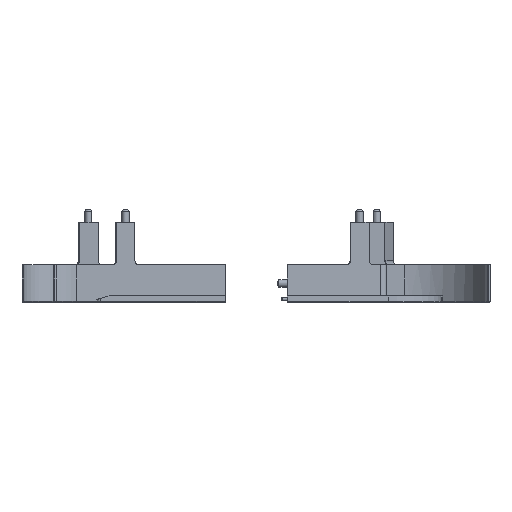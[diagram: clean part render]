
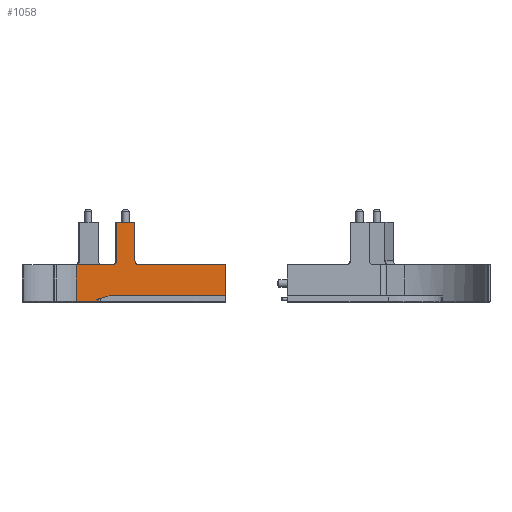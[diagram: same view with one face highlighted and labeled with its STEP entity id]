
A CAD part, front view. The second image highlights one B-rep face of the part: STEP entity #1058.
In plain terms, the highlighted planar face has unit normal (0.035, -0.999, 0).
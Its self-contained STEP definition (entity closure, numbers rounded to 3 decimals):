
#1058=ADVANCED_FACE('',(#1502),#4502,.T.);
#1502=FACE_OUTER_BOUND('',#1982,.T.);
#1982=EDGE_LOOP('',(#3475,#3476,#3477,#3478,#3479,#3480,#3481,#3482,#3483,
#3484,#3485,#3486,#3487,#3488));
#3475=ORIENTED_EDGE('',*,*,#6757,.F.);
#3476=ORIENTED_EDGE('',*,*,#6671,.T.);
#3477=ORIENTED_EDGE('',*,*,#6776,.F.);
#3478=ORIENTED_EDGE('',*,*,#6777,.F.);
#3479=ORIENTED_EDGE('',*,*,#6778,.T.);
#3480=ORIENTED_EDGE('',*,*,#6666,.T.);
#3481=ORIENTED_EDGE('',*,*,#6756,.F.);
#3482=ORIENTED_EDGE('',*,*,#6742,.T.);
#3483=ORIENTED_EDGE('',*,*,#6601,.F.);
#3484=ORIENTED_EDGE('',*,*,#6700,.F.);
#3485=ORIENTED_EDGE('',*,*,#6719,.T.);
#3486=ORIENTED_EDGE('',*,*,#6709,.F.);
#3487=ORIENTED_EDGE('',*,*,#6626,.F.);
#3488=ORIENTED_EDGE('',*,*,#6828,.F.);
#4502=PLANE('',#8647);
#5011=LINE('',#12586,#5706);
#5020=LINE('',#12611,#5715);
#5061=LINE('',#12694,#5756);
#5067=LINE('',#12703,#5762);
#5074=LINE('',#12713,#5769);
#5092=LINE('',#12745,#5787);
#5102=LINE('',#12759,#5797);
#5103=LINE('',#12760,#5798);
#5118=LINE('',#12784,#5813);
#5119=LINE('',#12785,#5814);
#5120=LINE('',#12786,#5815);
#5170=LINE('',#12836,#5865);
#5706=VECTOR('',#10124,1.);
#5715=VECTOR('',#10165,1.);
#5756=VECTOR('',#10266,1.);
#5762=VECTOR('',#10278,1.);
#5769=VECTOR('',#10291,1.);
#5787=VECTOR('',#10313,1.);
#5797=VECTOR('',#10331,1.);
#5798=VECTOR('',#10332,1.);
#5813=VECTOR('',#10353,1.);
#5814=VECTOR('',#10354,1.);
#5815=VECTOR('',#10355,1.);
#5865=VECTOR('',#10405,1.);
#6601=EDGE_CURVE('',#7805,#7806,#5011,.T.);
#6626=EDGE_CURVE('',#7934,#7828,#5020,.T.);
#6666=EDGE_CURVE('',#7865,#7863,#7321,.T.);
#6671=EDGE_CURVE('',#7867,#7868,#7324,.T.);
#6700=EDGE_CURVE('',#7888,#7805,#5061,.T.);
#6709=EDGE_CURVE('',#7828,#7894,#5067,.T.);
#6719=EDGE_CURVE('',#7888,#7894,#5074,.T.);
#6742=EDGE_CURVE('',#7914,#7806,#5092,.T.);
#6756=EDGE_CURVE('',#7914,#7863,#5102,.T.);
#6757=EDGE_CURVE('',#7867,#7933,#5103,.T.);
#6776=EDGE_CURVE('',#7924,#7868,#5118,.T.);
#6777=EDGE_CURVE('',#7921,#7924,#5119,.T.);
#6778=EDGE_CURVE('',#7921,#7865,#5120,.T.);
#6828=EDGE_CURVE('',#7933,#7934,#5170,.T.);
#7321=CIRCLE('',#8580,3.);
#7324=CIRCLE('',#8583,3.);
#7805=VERTEX_POINT('',#12416);
#7806=VERTEX_POINT('',#12417);
#7828=VERTEX_POINT('',#12439);
#7863=VERTEX_POINT('',#12474);
#7865=VERTEX_POINT('',#12476);
#7867=VERTEX_POINT('',#12478);
#7868=VERTEX_POINT('',#12479);
#7888=VERTEX_POINT('',#12499);
#7894=VERTEX_POINT('',#12505);
#7914=VERTEX_POINT('',#12525);
#7921=VERTEX_POINT('',#12532);
#7924=VERTEX_POINT('',#12535);
#7933=VERTEX_POINT('',#12544);
#7934=VERTEX_POINT('',#12545);
#8580=AXIS2_PLACEMENT_3D('',#12654,#10221,#10220);
#8583=AXIS2_PLACEMENT_3D('',#12659,#10229,#10228);
#8647=AXIS2_PLACEMENT_3D('',#12899,#10497,#10496);
#10124=DIRECTION('',(-0.999,-0.035,0.));
#10165=DIRECTION('',(-0.999,-0.035,0.));
#10220=DIRECTION('',(-0.999,-0.035,0.));
#10221=DIRECTION('',(-0.035,0.999,
0.));
#10228=DIRECTION('',(-0.999,-0.035,0.));
#10229=DIRECTION('',(-0.035,0.999,
0.));
#10266=DIRECTION('',(0.,0.,-1.));
#10278=DIRECTION('',(0.,0.,1.));
#10291=DIRECTION('',(0.999,0.035,0.));
#10313=DIRECTION('',(0.,0.,-1.));
#10331=DIRECTION('',(0.999,0.035,0.));
#10332=DIRECTION('',(0.999,0.035,0.));
#10353=DIRECTION('',(0.,0.,-1.));
#10354=DIRECTION('',(0.999,0.035,0.));
#10355=DIRECTION('',(0.,0.,-1.));
#10405=DIRECTION('',(0.,0.,-1.));
#10496=DIRECTION('',(-0.999,-0.035,0.));
#10497=DIRECTION('',(0.035,-0.999,
0.));
#12416=CARTESIAN_POINT('',(25.04,-263.726,-62.5));
#12417=CARTESIAN_POINT('',(-4.295,-264.75,-62.5));
#12439=CARTESIAN_POINT('',(42.062,-263.131,-62.5));
#12474=CARTESIAN_POINT('',(24.783,-263.735,-33.));
#12476=CARTESIAN_POINT('',(27.782,-263.63,-30.));
#12478=CARTESIAN_POINT('',(45.771,-263.002,-33.));
#12479=CARTESIAN_POINT('',(42.772,-263.106,-30.));
#12499=CARTESIAN_POINT('',(25.04,-263.726,-58.));
#12505=CARTESIAN_POINT('',(42.062,-263.131,-58.));
#12525=CARTESIAN_POINT('',(-4.295,-264.75,-33.));
#12532=CARTESIAN_POINT('',(27.782,-263.63,1.
));
#12535=CARTESIAN_POINT('',(42.772,-263.106,1.
));
#12544=CARTESIAN_POINT('',(115.156,-260.579,-33.));
#12545=CARTESIAN_POINT('',(115.156,-260.579,-62.5));
#12586=CARTESIAN_POINT('',(-4.295,-264.75,-62.5));
#12611=CARTESIAN_POINT('',(-4.295,-264.75,-62.5));
#12654=CARTESIAN_POINT('',(24.783,-263.735,-30.));
#12659=CARTESIAN_POINT('',(45.771,-263.002,-30.));
#12694=CARTESIAN_POINT('',(25.04,-263.726,-63.));
#12703=CARTESIAN_POINT('',(42.062,-263.131,-58.));
#12713=CARTESIAN_POINT('',(1.997,-264.53,-58.));
#12745=CARTESIAN_POINT('',(-4.295,-264.75,-33.));
#12759=CARTESIAN_POINT('',(-4.295,-264.75,-33.));
#12760=CARTESIAN_POINT('',(-4.295,-264.75,-33.));
#12784=CARTESIAN_POINT('',(42.772,-263.106,1.
));
#12785=CARTESIAN_POINT('',(27.782,-263.63,1.
));
#12786=CARTESIAN_POINT('',(27.782,-263.63,1.
));
#12836=CARTESIAN_POINT('',(115.156,-260.579,-33.));
#12899=CARTESIAN_POINT('',(-4.295,-264.75,-33.));
